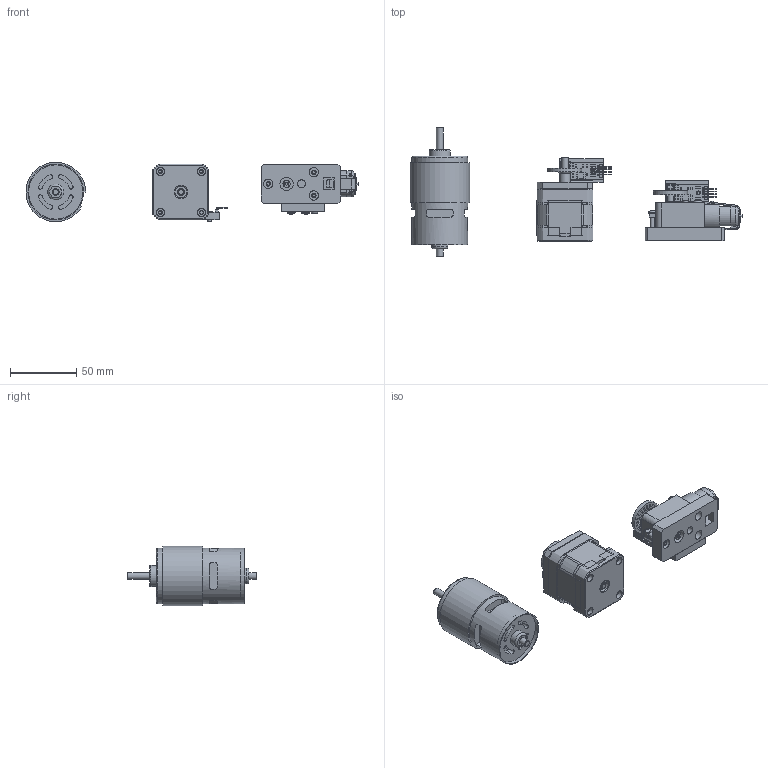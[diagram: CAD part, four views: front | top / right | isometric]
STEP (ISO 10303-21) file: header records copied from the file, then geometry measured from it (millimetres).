
FILE_DESCRIPTION(/* description */ (''),/* implementation_level */ '2;1');
FILE_NAME(/* name */ 'C:\Users\x300\Desktop\inventor\stepper_speed\ex.stp',/* time_stamp */ '2023-05-16T09:00:10+02:00',/* author */ ('x300'),/* organization */ (''),/* preprocessor_version */ 'ST-DEVELOPER v19',/* originating_system */ 'Autodesk Inventor 2023',/* authorisation */ '');
FILE_SCHEMA (('AUTOMOTIVE_DESIGN { 1 0 10303 214 3 1 1 }'));
Length unit declared in the file: millimetre
Products named in the file (26): Assieme2; disco_forato_01; supporto_sensore_01; nema17; Lm393 Motor Speed Measuring Sensor Module; AS 1420 - 1973 - M3 x 10; Assieme2_1; supporto_01; TT Motor; Part 8; Surface 1; Part 7; Part 6; Part 5; Part 4; Part 3; Part 2; Part 1; disco_forato_01_1; Lm393 Motor Speed Measuring Sensor Module_1; supporto_sensore_01_1; AS 1427 - M3 x 25; AS 1427 - M3 x 20; AS 1427 - M3 x 10; AS 1427 - M2,5 x 6; 775-dc-motor
Assembly tree (30 placements, depth 4):
  Assieme2
    disco_forato_01
    supporto_sensore_01
    nema17
    Lm393 Motor Speed Measuring Sensor Module
    AS 1420 - 1973 - M3 x 10  x3
    AS 1427 - M2,5 x 6
    Assieme2_1
      supporto_01
      TT Motor
        Part 8
        Surface 1
        Part 7
        Part 6
        Part 5
        Part 4
        Part 3
        Part 2
        Part 1
      disco_forato_01_1
      Lm393 Motor Speed Measuring Sensor Module_1
      supporto_sensore_01_1
      AS 1427 - M3 x 25  x2
      AS 1427 - M3 x 20
      AS 1427 - M3 x 10  x2
      AS 1427 - M2,5 x 6
    775-dc-motor
Bounding box: 250.87 x 98 x 45 mm (x, y, z)
Volume: 203305.6 mm3; surface area: 72347.4 mm2
Topology: 33 solids, 34 shells, 3156 faces, 8437 edges, 5566 vertices
Faces by surface type: plane 1892, bspline 826, cylinder 244, cone 111, torus 60, sphere 23
Full cylindrical faces by diameter (mm): 0.5 x2, 1.8 x1, 1.9 x2, 2.224 x2, 2.5 x11, 2.693 x5, 2.8 x1, 3 x17, 3.2 x7, 3.4 x3, 3.5 x4, 3.8 x1, 5 x4, 5.4 x2, 5.5 x3, 6 x8, 7 x3, 7.2 x1, 8 x1, 9 x2, 10 x3, 12 x1, 16 x1, 22 x1, 25 x1, 25.8 x2, 35 x1, 41 x1, 42 x1
Entity records: 128737 total; most frequent: CARTESIAN_POINT 56466, ORIENTED_EDGE 16230, DIRECTION 11518, EDGE_CURVE 8121, LINE 5610, VECTOR 5610, VERTEX_POINT 5361, EDGE_LOOP 3415
